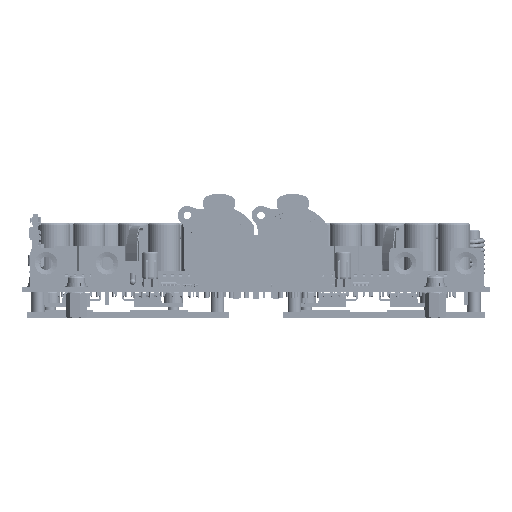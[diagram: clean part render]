
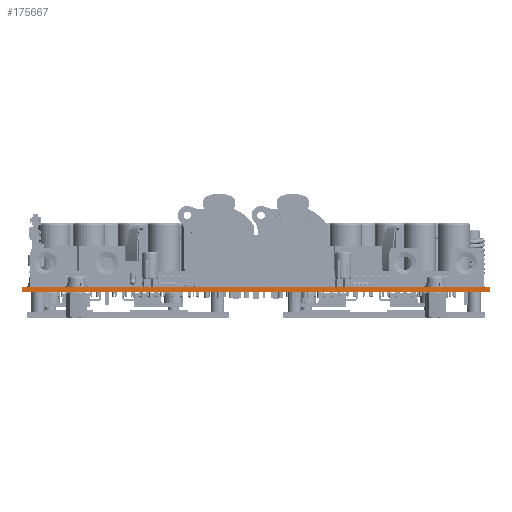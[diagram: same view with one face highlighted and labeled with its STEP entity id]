
A CAD part, front view. The second image highlights one B-rep face of the part: STEP entity #175667.
In plain terms, the highlighted planar face has unit normal (0, -1, 0).
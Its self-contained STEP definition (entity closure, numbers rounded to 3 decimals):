
#76914=VERTEX_POINT('',#222453);
#76915=VERTEX_POINT('',#222454);
#76916=VERTEX_POINT('',#222456);
#76917=VERTEX_POINT('',#222458);
#87471=VECTOR('',#193342,1.);
#87472=VECTOR('',#193343,1.);
#87473=VECTOR('',#193344,1.);
#87474=VECTOR('',#193345,1.);
#99149=LINE('',#222452,#87471);
#99150=LINE('',#222455,#87472);
#99151=LINE('',#222457,#87473);
#99152=LINE('',#222459,#87474);
#110827=EDGE_CURVE('',#76914,#76915,#99149,.T.);
#110828=EDGE_CURVE('',#76915,#76916,#99150,.T.);
#110829=EDGE_CURVE('',#76917,#76916,#99151,.T.);
#110830=EDGE_CURVE('',#76914,#76917,#99152,.T.);
#127403=ORIENTED_EDGE('',*,*,#110827,.T.);
#127404=ORIENTED_EDGE('',*,*,#110828,.T.);
#127405=ORIENTED_EDGE('',*,*,#110829,.F.);
#127406=ORIENTED_EDGE('',*,*,#110830,.F.);
#160015=EDGE_LOOP('',(#127403,#127404,#127405,#127406));
#167841=FACE_BOUND('',#160015,.T.);
#175667=ADVANCED_FACE('',(#167841),#291079,.F.);
#182352=AXIS2_PLACEMENT_3D('',#222451,#193341,$);
#193341=DIRECTION('',(0.,1.,0.));
#193342=DIRECTION('',(1.,0.,0.));
#193343=DIRECTION('',(0.,0.,1.));
#193344=DIRECTION('',(1.,0.,0.));
#193345=DIRECTION('',(0.,0.,1.));
#222451=CARTESIAN_POINT('',(-73.,0.,0.));
#222452=CARTESIAN_POINT('',(-73.,0.,0.));
#222453=CARTESIAN_POINT('',(-73.,0.,0.));
#222454=CARTESIAN_POINT('',(73.,0.,0.));
#222455=CARTESIAN_POINT('',(73.,0.,0.));
#222456=CARTESIAN_POINT('',(73.,0.,1.6));
#222457=CARTESIAN_POINT('',(-73.,0.,1.6));
#222458=CARTESIAN_POINT('',(-73.,0.,1.6));
#222459=CARTESIAN_POINT('',(-73.,0.,0.));
#291079=PLANE('',#182352);
